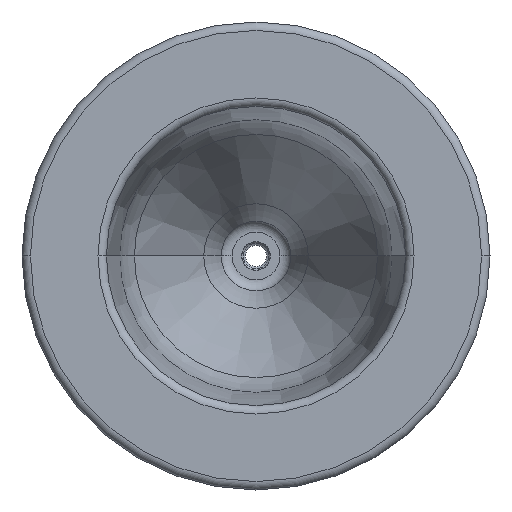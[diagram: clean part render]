
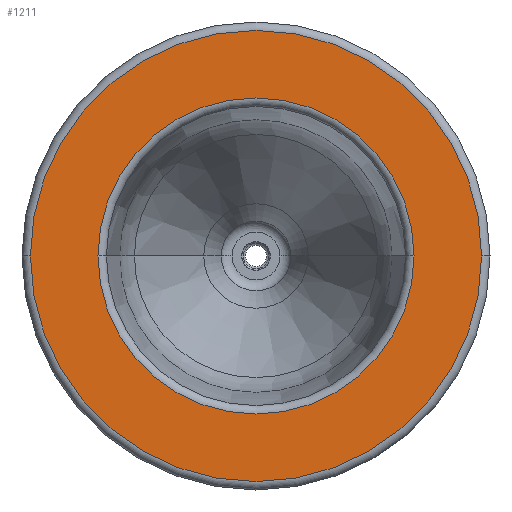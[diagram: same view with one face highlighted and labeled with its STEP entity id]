
A CAD part, front view. The second image highlights one B-rep face of the part: STEP entity #1211.
In plain terms, the highlighted planar face has unit normal (0, -1, 0).
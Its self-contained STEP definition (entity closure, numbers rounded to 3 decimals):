
#15 = ORIENTED_EDGE ( 'NONE', *, *, #679, .T. ) ;
#62 = DIRECTION ( 'NONE',  ( 0., -1., 0. ) ) ;
#106 = CIRCLE ( 'NONE', #1301, 56.049 ) ;
#179 = CARTESIAN_POINT ( 'NONE',  ( -123.388, 9.187, 58.869 ) ) ;
#182 = DIRECTION ( 'NONE',  ( 0., -1., 0. ) ) ;
#228 = ORIENTED_EDGE ( 'NONE', *, *, #484, .T. ) ;
#241 = EDGE_LOOP ( 'NONE', ( #482, #1271 ) ) ;
#285 = CARTESIAN_POINT ( 'NONE',  ( -43.388, 9.187, 58.869 ) ) ;
#295 = CIRCLE ( 'NONE', #1458, 56.049 ) ;
#421 = CARTESIAN_POINT ( 'NONE',  ( -67.339, 9.187, 58.869 ) ) ;
#448 = VERTEX_POINT ( 'NONE', #285 ) ;
#482 = ORIENTED_EDGE ( 'NONE', *, *, #1074, .T. ) ;
#484 = EDGE_CURVE ( 'NONE', #1356, #448, #1904, .T. ) ;
#489 = CIRCLE ( 'NONE', #1562, 80. ) ;
#545 = VERTEX_POINT ( 'NONE', #421 ) ;
#632 = DIRECTION ( 'NONE',  ( 1., 0., 0. ) ) ;
#651 = DIRECTION ( 'NONE',  ( 1., 0., 0. ) ) ;
#665 = DIRECTION ( 'NONE',  ( 0., 1., 0. ) ) ;
#679 = EDGE_CURVE ( 'NONE', #448, #1356, #489, .T. ) ;
#719 = EDGE_LOOP ( 'NONE', ( #15, #228 ) ) ;
#775 = EDGE_CURVE ( 'NONE', #1475, #545, #106, .T. ) ;
#821 = CARTESIAN_POINT ( 'NONE',  ( -123.388, 9.187, 58.869 ) ) ;
#910 = FACE_OUTER_BOUND ( 'NONE', #719, .T. ) ;
#946 = CARTESIAN_POINT ( 'NONE',  ( -70.088, 9.187, 58.869 ) ) ;
#971 = CARTESIAN_POINT ( 'NONE',  ( -123.388, 9.187, 58.869 ) ) ;
#979 = DIRECTION ( 'NONE',  ( 0., 1., 0. ) ) ;
#1057 = FACE_BOUND ( 'NONE', #241, .T. ) ;
#1074 = EDGE_CURVE ( 'NONE', #545, #1475, #295, .T. ) ;
#1130 = CARTESIAN_POINT ( 'NONE',  ( -179.437, 9.187, 58.869 ) ) ;
#1211 = ADVANCED_FACE ( 'NONE', ( #1057, #910 ), #1665, .T. ) ;
#1271 = ORIENTED_EDGE ( 'NONE', *, *, #775, .T. ) ;
#1301 = AXIS2_PLACEMENT_3D ( 'NONE', #821, #665, #651 ) ;
#1344 = AXIS2_PLACEMENT_3D ( 'NONE', #946, #62, #632 ) ;
#1356 = VERTEX_POINT ( 'NONE', #1750 ) ;
#1420 = DIRECTION ( 'NONE',  ( 1., 0., 0. ) ) ;
#1458 = AXIS2_PLACEMENT_3D ( 'NONE', #971, #979, #1574 ) ;
#1475 = VERTEX_POINT ( 'NONE', #1130 ) ;
#1532 = DIRECTION ( 'NONE',  ( 0., -1., 0. ) ) ;
#1537 = CARTESIAN_POINT ( 'NONE',  ( -123.388, 9.187, 58.869 ) ) ;
#1562 = AXIS2_PLACEMENT_3D ( 'NONE', #179, #1532, #1815 ) ;
#1574 = DIRECTION ( 'NONE',  ( 1., 0., 0. ) ) ;
#1665 = PLANE ( 'NONE',  #1344 ) ;
#1712 = AXIS2_PLACEMENT_3D ( 'NONE', #1537, #182, #1420 ) ;
#1750 = CARTESIAN_POINT ( 'NONE',  ( -203.388, 9.187, 58.869 ) ) ;
#1815 = DIRECTION ( 'NONE',  ( 1., 0., 0. ) ) ;
#1904 = CIRCLE ( 'NONE', #1712, 80. ) ;
